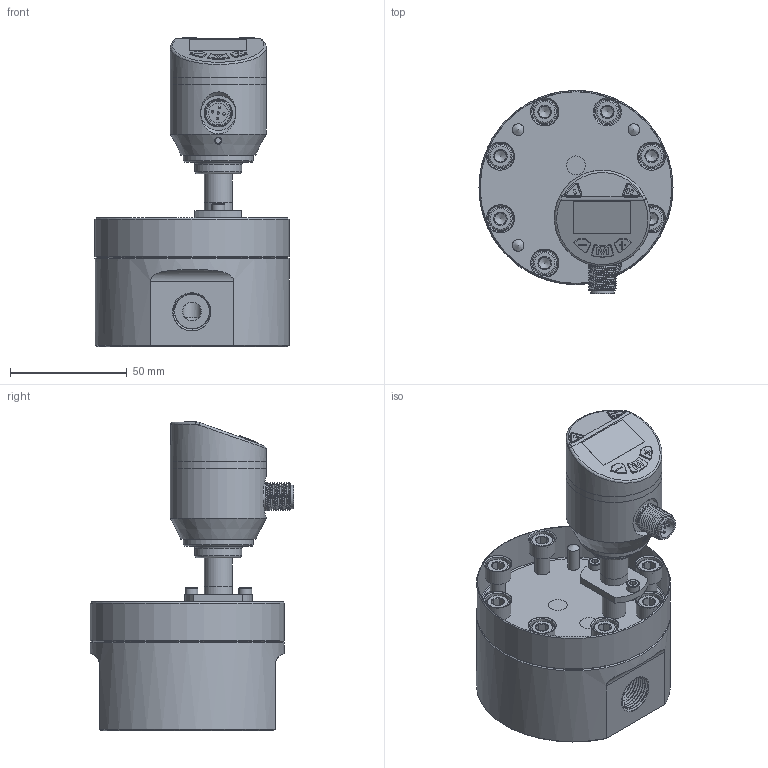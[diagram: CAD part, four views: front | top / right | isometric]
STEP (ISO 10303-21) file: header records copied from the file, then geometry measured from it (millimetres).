
FILE_DESCRIPTION( (''), '2;1');
FILE_NAME( 'QZKA_M4_G3-8.step', '2024-02-26T10:29:02+08:00', (''), (''), '', '', '');
FILE_SCHEMA (('AUTOMOTIVE_DESIGN { 1 0 10303 214 3 1 1 1 }'));
Products named in the file (1): QZKA M4_G3-8
Bounding box: 83 x 86.95 x 132.2 mm (x, y, z)
Volume: 317905.8 mm3; surface area: 77284.4 mm2
Topology: 17 solids, 18 shells, 747 faces, 1659 edges, 994 vertices
Faces by surface type: plane 304, cylinder 197, cone 149, torus 59, bspline 32, sphere 6
Full cylindrical faces by diameter (mm): 1 x5, 2.7 x4, 2.874 x2, 3.5 x2, 5 x18, 5.5 x2, 5.795 x8, 6.5 x8, 8 x6, 8.4 x1, 9.7 x1, 9.8 x1, 10 x11, 10.1 x1, 11 x8, 11.6 x1, 12 x3, 16.5 x1, 20 x1, 23 x3, 26 x4, 26.1 x1, 30 x1, 37 x1, 41 x3, 83 x2
Entity records: 41036 total; most frequent: CARTESIAN_POINT 24263, DIRECTION 3256, ORIENTED_EDGE 2736, EDGE_CURVE 1368, AXIS2_PLACEMENT_3D 1364, EDGE_LOOP 1020, VERTEX_POINT 932, ADVANCED_FACE 744
